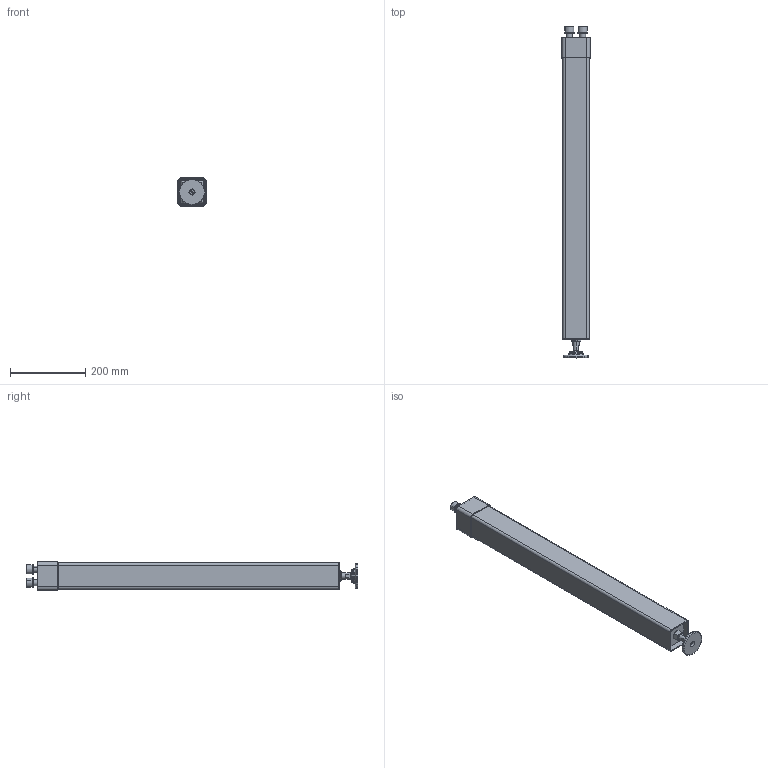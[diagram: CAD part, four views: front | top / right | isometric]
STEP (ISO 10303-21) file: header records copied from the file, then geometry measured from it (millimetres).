
FILE_DESCRIPTION (( 'STEP AP203' ), '1' );
FILE_NAME ('160857.X_850.step', '2014-08-11T17:00:41', ( 'User' ), ( '' ), 'SwSTEP 2.0', 'SolidWorks 2014', '' );
FILE_SCHEMA (( 'CONFIG_CONTROL_DESIGN' ));
Length unit declared in the file: millimetre
Products named in the file (12): Hohlprofil 70x70x3^160857.X_850_Foto[Wie bearbeitet]; 160873 Manschette_Foto_V1 Kreis; Platte ^160857.X_850_Foto; M16x50 DIN 912_Detailliert; Aufnahme^160857.X_850_Foto; Ring DIN 127 A16; Kopie von M16x1,5 Spindel 80^160855.X.1_ Verstelleinheit_ohne gew; 160857.X_850; Kopie von 160863.T2_Teller 70^160855.X.1_ Verstelleinheit; DIN 7984 - M8 x 25 --- 21.25N_DIN 7984 - M8 x 25 --- 21.25N; 160855.X.1_ Verstelleinheit_Fuáteller 60; M16x1,5 Din 934
Assembly tree (13 placements, depth 3):
  160857.X_850
    Hohlprofil 70x70x3^160857.X_850_Foto[Wie bearbeitet]
    Platte ^160857.X_850_Foto
    Aufnahme^160857.X_850_Foto
    160855.X.1_ Verstelleinheit_Fuáteller 60
      Kopie von M16x1,5 Spindel 80^160855.X.1_ Verstelleinheit_ohne gew
      Kopie von 160863.T2_Teller 70^160855.X.1_ Verstelleinheit
      DIN 7984 - M8 x 25 --- 21.25N_DIN 7984 - M8 x 25 --- 21.25N
    M16x1,5 Din 934
    160873 Manschette_Foto_V1 Kreis
    M16x50 DIN 912_Detailliert  x2
    Ring DIN 127 A16  x2
Bounding box: 75 x 882 x 75 mm (x, y, z)
Volume: 929368.1 mm3; surface area: 517169.7 mm2
Topology: 12 solids, 12 shells, 302 faces, 676 edges, 404 vertices
Faces by surface type: plane 98, cylinder 90, torus 70, cone 44
Entity records: 9008 total; most frequent: CARTESIAN_POINT 1539, DIRECTION 1428, ORIENTED_EDGE 1200, EDGE_CURVE 600, AXIS2_PLACEMENT_3D 585, VERTEX_POINT 360, CIRCLE 300, EDGE_LOOP 294
